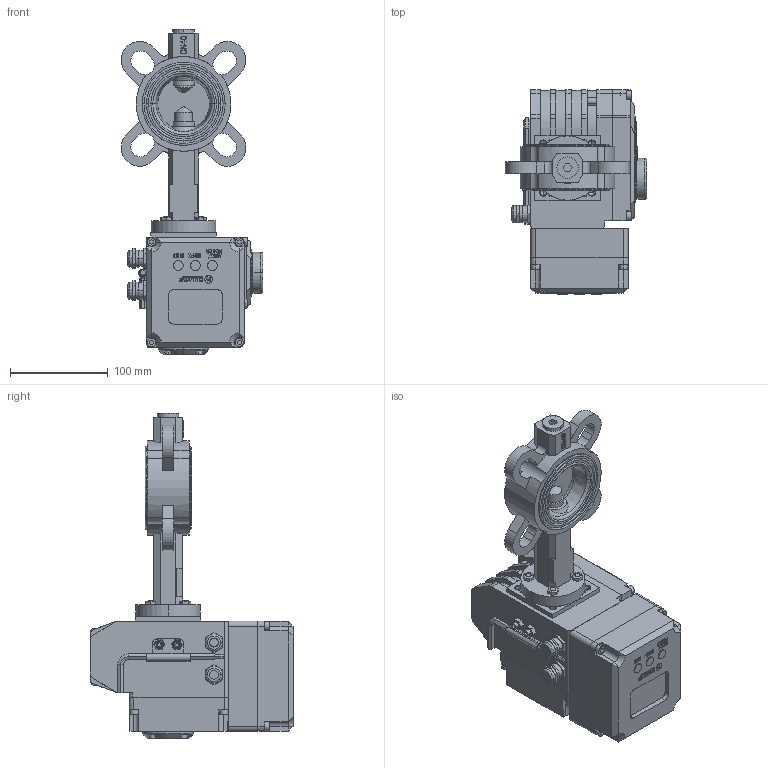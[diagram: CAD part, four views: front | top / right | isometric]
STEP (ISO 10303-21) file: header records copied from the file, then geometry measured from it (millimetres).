
FILE_DESCRIPTION((''),'2;1');
FILE_NAME('VBS_EAR_A_ASM','2025-02-22T',('AMD'),(''),'PRO/ENGINEER BY PARAMETRIC TECHNOLOGY CORPORATION, 2008020','PRO/ENGINEER BY PARAMETRIC TECHNOLOGY CORPORATION, 2008020','');
FILE_SCHEMA(('CONFIG_CONTROL_DESIGN'));
Length unit declared in the file: millimetre
Products named in the file (28): KORPUS; REZ; DISK; SHTIR_1; ZAGLUSHKA; O-RING; SHTIR_2; SHAIBA_RAZREZ; SHAIBA; KOLCO_22_GOST13943; VTULKA; MANZET_REZ; SB_ASM; B-7798-M6-20; DET_1; V-11738-M5; V-11738-M4; DET_2; KREPLENIE; KLUCH; DET_3; G-5915-M6; ELECTROPRIVOD_ASM; DET_4; DET_5; DISPLAY_ASM; ELECTROPRIVOD_WITH_DISPLAY_ASM; VBS_EAR_A_ASM
Assembly tree (51 placements, depth 4):
  VBS_EAR_A_ASM
    SB_ASM
      KORPUS
      REZ
      DISK
      SHTIR_1
      ZAGLUSHKA
      O-RING  x2
      SHTIR_2
      SHAIBA_RAZREZ
      SHAIBA  x2
      KOLCO_22_GOST13943
      VTULKA  x5
      MANZET_REZ
    B-7798-M6-20  x4
    ELECTROPRIVOD_WITH_DISPLAY_ASM
      ELECTROPRIVOD_ASM
        DET_1
        V-11738-M5  x8
        V-11738-M4  x4
        DET_2
        KREPLENIE
        KLUCH
        DET_3
        G-5915-M6  x2
      DISPLAY_ASM
        DET_4
        DET_5
        V-11738-M5  x4
Bounding box: 144.83 x 209 x 333.5 mm (x, y, z)
Volume: 2468129.1 mm3; surface area: 368938.9 mm2
Topology: 47 solids, 88 shells, 2674 faces, 7065 edges, 4661 vertices
Faces by surface type: plane 1748, cylinder 486, extrusion 300, cone 102, torus 38
Entity records: 74777 total; most frequent: CARTESIAN_POINT 15826, ORIENTED_EDGE 12426, DIRECTION 11147, EDGE_CURVE 6261, VECTOR 4941, LINE 4641, VERTEX_POINT 4147, AXIS2_PLACEMENT_3D 3103
